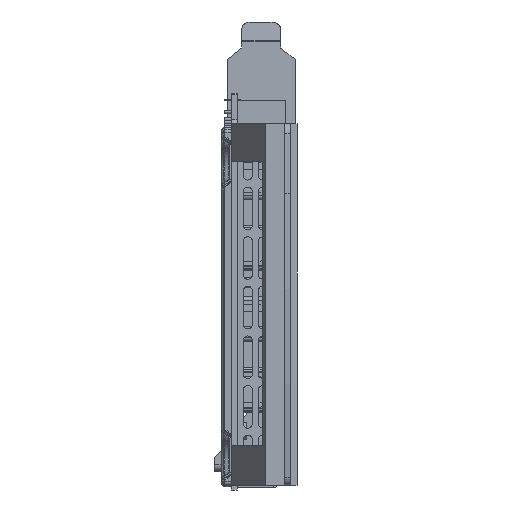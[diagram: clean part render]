
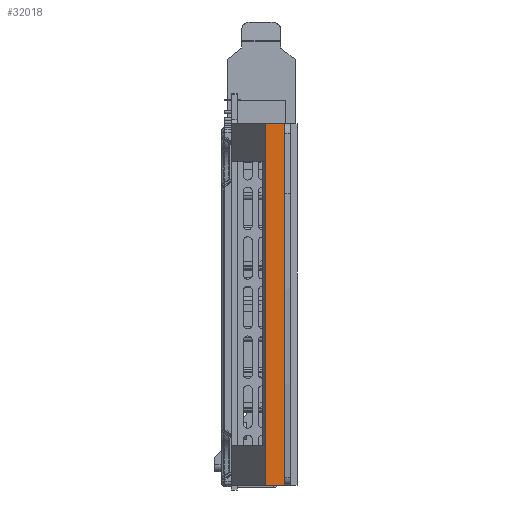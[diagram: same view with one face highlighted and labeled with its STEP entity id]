
A CAD part, front view. The second image highlights one B-rep face of the part: STEP entity #32018.
In plain terms, the highlighted planar face has unit normal (0, -1, 0).
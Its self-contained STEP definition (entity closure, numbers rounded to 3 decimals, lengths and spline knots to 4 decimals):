
#2733=DIRECTION('',(1.,0.,0.));
#2734=VECTOR('',#2733,0.198);
#2735=CARTESIAN_POINT('',(0.364,-12.579,-3.96));
#2736=LINE('',#2735,#2734);
#2841=DIRECTION('',(1.,0.,0.));
#2842=VECTOR('',#2841,0.198);
#2843=CARTESIAN_POINT('',(0.364,-12.579,-0.135));
#2844=LINE('',#2843,#2842);
#2909=DIRECTION('',(0.,0.,1.));
#2910=VECTOR('',#2909,3.825);
#2911=CARTESIAN_POINT('',(0.364,-12.579,-3.96));
#2912=LINE('',#2911,#2910);
#2928=DIRECTION('',(0.,0.,1.));
#2929=VECTOR('',#2928,3.825);
#2930=CARTESIAN_POINT('',(0.562,-12.579,-3.96));
#2931=LINE('',#2930,#2929);
#30034=CARTESIAN_POINT('',(0.364,-12.579,-3.96));
#30035=VERTEX_POINT('',#30034);
#30036=CARTESIAN_POINT('',(0.562,-12.579,-3.96));
#30037=VERTEX_POINT('',#30036);
#30054=CARTESIAN_POINT('',(0.364,-12.579,-0.135));
#30055=VERTEX_POINT('',#30054);
#30056=CARTESIAN_POINT('',(0.562,-12.579,-0.135));
#30057=VERTEX_POINT('',#30056);
#32006=CARTESIAN_POINT('',(0.364,-12.579,-3.96));
#32007=DIRECTION('',(0.,-1.,0.));
#32008=DIRECTION('',(1.,0.,0.));
#32009=AXIS2_PLACEMENT_3D('',#32006,#32007,#32008);
#32010=PLANE('',#32009);
#32011=ORIENTED_EDGE('',*,*,#31793,.F.);
#32012=ORIENTED_EDGE('',*,*,#31994,.T.);
#32013=ORIENTED_EDGE('',*,*,#31893,.T.);
#32015=ORIENTED_EDGE('',*,*,#32014,.F.);
#32016=EDGE_LOOP('',(#32011,#32012,#32013,#32015));
#32017=FACE_OUTER_BOUND('',#32016,.F.);
#32018=ADVANCED_FACE('',(#32017),#32010,.T.);
#31793=EDGE_CURVE('',#30035,#30037,#2736,.T.);
#31893=EDGE_CURVE('',#30055,#30057,#2844,.T.);
#31994=EDGE_CURVE('',#30035,#30055,#2912,.T.);
#32014=EDGE_CURVE('',#30037,#30057,#2931,.T.);
